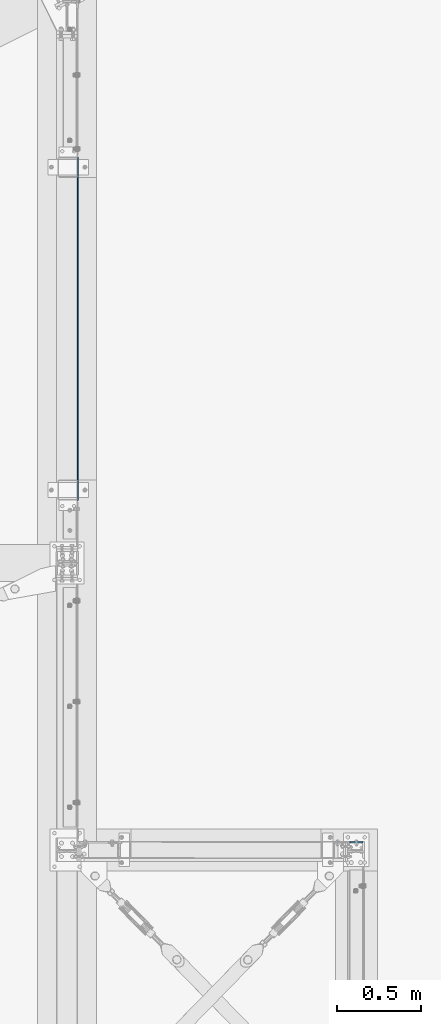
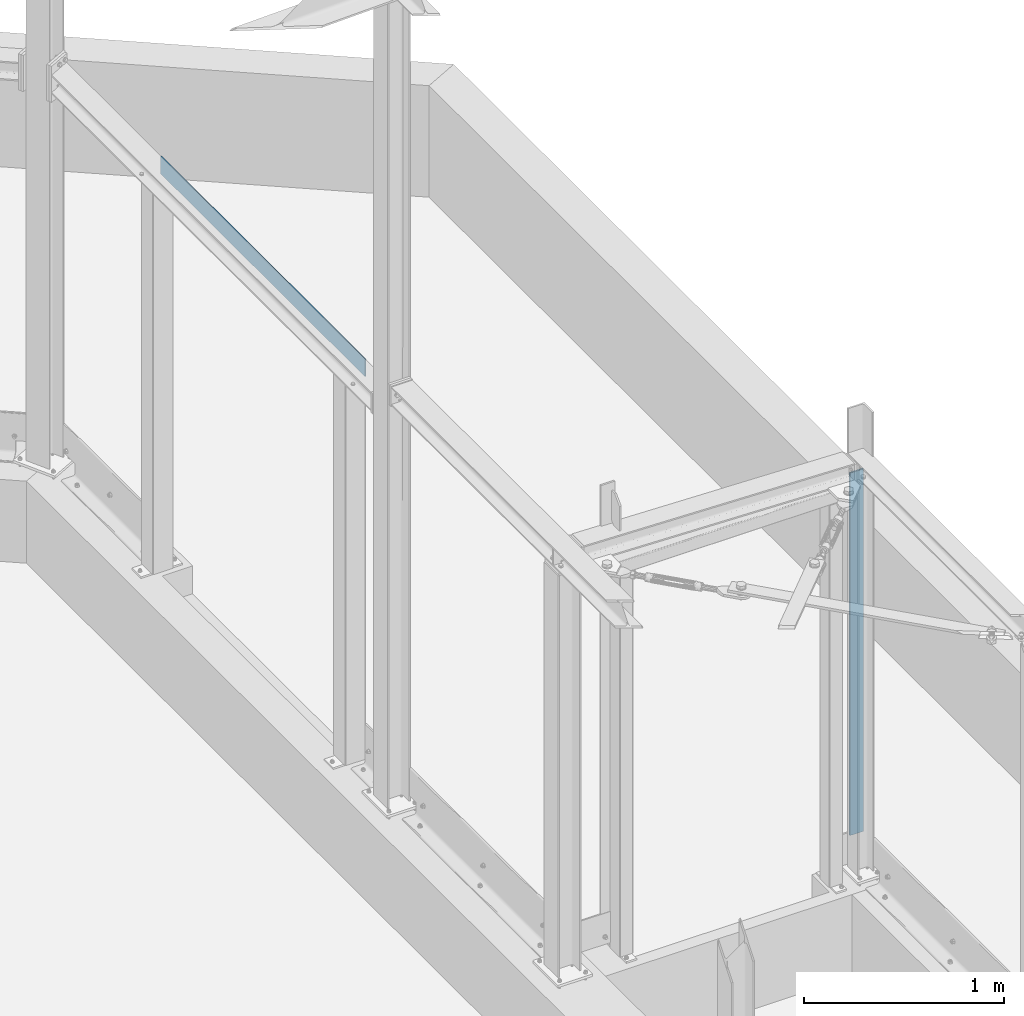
# One storey, part 31 of 476: 2 plates.
"""IFC2X3 building model written with IfcOpenShell, lengths in millimetres."""

import ifcopenshell
import ifcopenshell.guid

model = None  # the IFC model being written
_history = None  # IfcOwnerHistory: only IFC2X3 demands one
_inside = {}  # id of a spatial element -> (the spatial element, [elements in it])
_under = {}  # id of a project, library or spatial element -> (it, [spatial elements below it])
_declared = {}  # id of a project -> (the project, [libraries it declares])
_typed = {}  # id of a type object -> (the type object, [elements of that type])
_made_of = {}  # id of a material, layer set ... -> (it, [elements and type objects made of it])


def new_model(schema):
    """Start an empty IFC model of exactly this schema.

    Asked for "IFC4X3", IfcOpenShell would pick the latest addendum, in which some entities
    have other attributes; the version numbers below select the first issue.
    IFC2X3 requires an IfcOwnerHistory on every rooted entity: one is made here for all.
    """
    global model, _history
    if schema == "IFC4X3":
        model = ifcopenshell.file(schema_version=(4, 3, 0, 0))
    else:
        model = ifcopenshell.file(schema=schema)
    _inside.clear()
    _under.clear()
    _declared.clear()
    _typed.clear()
    _made_of.clear()
    _history = None
    if model.schema == "IFC2X3":
        org = make("IfcOrganization", Name="unknown")
        user = make(
            "IfcPersonAndOrganization",
            ThePerson=make("IfcPerson", FamilyName="unknown"),
            TheOrganization=org,
        )
        app = make(
            "IfcApplication",
            ApplicationDeveloper=org,
            Version="unknown",
            ApplicationFullName="unknown",
            ApplicationIdentifier="unknown",
        )
        _history = make(
            "IfcOwnerHistory",
            OwningUser=user,
            OwningApplication=app,
            ChangeAction="ADDED",
            CreationDate=0,
        )
    return model


def make(cls, **values):
    """One entity of the class cls with the attributes given. An attribute that is None is left unset."""
    return model.create_entity(
        cls, **{name: value for name, value in values.items() if value is not None}
    )


def entity(cls, *values):
    """Any entity or typed value of the class cls, its attributes in the order of the schema. None: left unset."""
    e = model.create_entity(cls)
    for i, value in enumerate(values):
        if value is not None:
            e[i] = value
    return e


def rooted(cls, **values):
    """An entity with a GlobalId (a new one), such as an element, a storey or a relation."""
    return make(cls, GlobalId=ifcopenshell.guid.new(), OwnerHistory=_history, **values)


def si_unit(unit_type, name, prefix=None):
    """IfcSIUnit, for example si_unit("LENGTHUNIT", "METRE", prefix="MILLI")."""
    return make("IfcSIUnit", UnitType=unit_type, Prefix=prefix, Name=name)


def converted_unit(unit_type, name, factor, base, dimensions=None, offset=None):
    """IfcConversionBasedUnit, such as the inch: factor (a typed value) times the base unit."""
    return make(
        "IfcConversionBasedUnit"
        if offset is None
        else "IfcConversionBasedUnitWithOffset",
        ConversionOffset=offset,
        Dimensions=None
        if dimensions is None
        else entity("IfcDimensionalExponents", *dimensions),
        UnitType=unit_type,
        Name=name,
        ConversionFactor=make(
            "IfcMeasureWithUnit", ValueComponent=factor, UnitComponent=base
        ),
    )


def assignment(units):
    """IfcUnitAssignment: the units of a project."""
    return None if units is None else make("IfcUnitAssignment", Units=units)


def point(xyz):
    """IfcCartesianPoint."""
    return None if xyz is None else make("IfcCartesianPoint", Coordinates=xyz)


def direction(xyz):
    """IfcDirection."""
    return None if xyz is None else make("IfcDirection", DirectionRatios=xyz)


def frame(location, z_axis=None, x_axis=None):
    """IfcAxis2Placement3D, a coordinate frame: its origin and axes. An axis left out is left unset."""
    return make(
        "IfcAxis2Placement3D",
        Location=point(location),
        Axis=direction(z_axis),
        RefDirection=direction(x_axis),
    )


def origin_with_axes():
    """The frame at (0, 0, 0) with the z axis (0, 0, 1) and the x axis (1, 0, 0) written out."""
    return frame((0.0, 0.0, 0.0), z_axis=(0.0, 0.0, 1.0), x_axis=(1.0, 0.0, 0.0))


def place(relative_to, where):
    """IfcLocalPlacement: puts the frame where relative to a parent placement (None: the world)."""
    return make(
        "IfcLocalPlacement", PlacementRelTo=relative_to, RelativePlacement=where
    )


def context(
    kind, dimensions, precision=None, world=None, true_north=None, identifier=None
):
    """IfcGeometricRepresentationContext, for example the 3D "Model" context."""
    return make(
        "IfcGeometricRepresentationContext",
        ContextIdentifier=identifier,
        ContextType=kind,
        CoordinateSpaceDimension=dimensions,
        Precision=precision,
        WorldCoordinateSystem=world,
        TrueNorth=true_north,
    )


def project(units=None, contexts=None):
    """IfcProject with its units and contexts."""
    return rooted(
        "IfcProject",
        Name="project",
        RepresentationContexts=contexts,
        UnitsInContext=assignment(units),
    )


def spatial(cls, under=None, at=None, **own):
    """A site, building, storey or space (cls), placed at a placement, below another one or the project."""
    s = rooted(cls, ObjectPlacement=at, **own)
    if under is not None:
        _under.setdefault(under.id(), (under, []))[1].append(s)
    return s


def polyline(points):
    """IfcPolyline through the points."""
    return make("IfcPolyline", Points=[point(p) for p in points])


def outline(outer, holes=None, kind="AREA"):
    """IfcArbitraryClosedProfileDef: a profile drawn as a closed curve; with holes, ...WithVoids."""
    if holes is None:
        return make("IfcArbitraryClosedProfileDef", ProfileType=kind, OuterCurve=outer)
    return make(
        "IfcArbitraryProfileDefWithVoids",
        ProfileType=kind,
        OuterCurve=outer,
        InnerCurves=holes,
    )


def extrude(swept, where, along, depth):
    """IfcExtrudedAreaSolid: the profile swept, set in the frame where, extruded along a direction by depth."""
    return make(
        "IfcExtrudedAreaSolid",
        SweptArea=swept,
        Position=where,
        ExtrudedDirection=direction(along),
        Depth=depth,
    )


def shape(context_of_items, identifier, shape_type, items):
    """IfcShapeRepresentation: the items that make up one representation, for example the "Body"."""
    return make(
        "IfcShapeRepresentation",
        ContextOfItems=context_of_items,
        RepresentationIdentifier=identifier,
        RepresentationType=shape_type,
        Items=items,
    )


def material(Name=None, Category=None):
    """IfcMaterial."""
    return make("IfcMaterial", Name=Name, Category=Category)


def layer(
    of_material, thickness, ventilated=None, Name=None, Category=None, Priority=None
):
    """IfcMaterialLayer: one layer of a wall or slab, of a material (None: an air gap)."""
    return make(
        "IfcMaterialLayer",
        Material=of_material,
        LayerThickness=thickness,
        IsVentilated=ventilated,
        Name=Name,
        Category=Category,
        Priority=Priority,
    )


def layer_set(layers, Name=None):
    """IfcMaterialLayerSet."""
    return make("IfcMaterialLayerSet", MaterialLayers=layers, LayerSetName=Name)


def made_of(thing, what):
    """Note that an element or type object is made of a material, layer set ...; save() writes the relation."""
    if what is not None:
        _made_of.setdefault(what.id(), (what, []))[1].append(thing)
    return thing


def element(
    cls,
    number,
    at=None,
    inside=None,
    cuts=None,
    type_object=None,
    material=None,
    context=None,
    identifier="Body",
    shape_type=None,
    held_by="IfcProductDefinitionShape",
    body=None,
    shapes=None,
    **own,
):
    """One element of the class cls, such as IfcWall. Its Tag is "e" and its number.

    at: its placement. inside: the storey or other place that contains it. cuts: it is an
    opening in that element (IfcRelVoidsElement). A single representation is given by context,
    identifier, shape_type and body (its items); several are given by shapes. held_by: the class
    of the entity that holds the representations. save() writes the other relations.
    """
    e = rooted(cls, Tag="e%d" % number, ObjectPlacement=at, **own)
    if body is not None:
        shapes = [shape(context, identifier, shape_type, body)]
    if shapes is not None:
        e.Representation = make(held_by, Representations=shapes)
    if inside is not None:
        _inside.setdefault(inside.id(), (inside, []))[1].append(e)
    if cuts is not None:
        rooted(
            "IfcRelVoidsElement", RelatingBuildingElement=cuts, RelatedOpeningElement=e
        )
    if type_object is not None:
        _typed.setdefault(type_object.id(), (type_object, []))[1].append(e)
    return made_of(e, material)


def aggregate(whole, parts):
    """IfcRelAggregates: a whole, such as a stair, and the parts it consists of."""
    return rooted("IfcRelAggregates", RelatingObject=whole, RelatedObjects=parts)


def save(model, path):
    """Write the relations noted so far, then the file.

    IfcRelAggregates (storeys below a building ...), IfcRelContainedInSpatialStructure (elements
    in a storey), IfcRelDefinesByType, IfcRelAssociatesMaterial and IfcRelDeclares: one each for
    every whole, place, type object, material and project.
    """
    for whole, parts in _under.values():
        aggregate(whole, parts)
    for where, things in _inside.values():
        rooted(
            "IfcRelContainedInSpatialStructure",
            RelatedElements=things,
            RelatingStructure=where,
        )
    for kind, things in _typed.values():
        rooted("IfcRelDefinesByType", RelatedObjects=things, RelatingType=kind)
    for what, things in _made_of.values():
        rooted("IfcRelAssociatesMaterial", RelatedObjects=things, RelatingMaterial=what)
    for by, libraries in _declared.values():
        rooted("IfcRelDeclares", RelatingContext=by, RelatedDefinitions=libraries)
    model.write(path)


model = new_model("IFC2X3")

# Units and contexts
model_context = context("Model", 3, precision=1e-09, world=origin_with_axes())
ifc_project = project(units=[si_unit("LENGTHUNIT", "METRE", prefix="MILLI"), si_unit("AREAUNIT", "SQUARE_METRE"), si_unit("VOLUMEUNIT", "CUBIC_METRE"), converted_unit("PLANEANGLEUNIT", "DEGREE", entity("IfcPlaneAngleMeasure", 0.01745329), si_unit("PLANEANGLEUNIT", "RADIAN"), dimensions=[0, 0, 0, 0, 0, 0, 0])], contexts=[model_context])

# Site, building, storey
site_placement = place(None, origin_with_axes())
site = spatial("IfcSite", under=ifc_project, at=site_placement, Name="mKR Teilneubau & Sanierung BA1 - Ostfildern", CompositionType="ELEMENT")
building_placement = place(site_placement, origin_with_axes())
building = spatial("IfcBuilding", under=site, at=building_placement, Name="Struktur 1", CompositionType="ELEMENT")
storey_placement = place(building_placement, origin_with_axes())
storey = spatial("IfcBuildingStorey", under=building, at=storey_placement, Name="Default Storey", CompositionType="ELEMENT", Elevation=0.0)

# Plates
ifc_material = material(Name="S235JR")
ifc_layer_1 = layer(ifc_material, 8.0)
ifc_layer_set_1 = layer_set([ifc_layer_1], Name="S235JR")
plate_1_placement = place(None, frame((23685.608764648, -4176.67387897, 1749.0), z_axis=(0.0, 1.0, 0.0), x_axis=(-1.0, 0.0, 0.0)))
element("IfcPlate", 1, at=plate_1_placement, inside=storey, material=ifc_layer_set_1, Name="-", ObjectType="-", context=model_context, shape_type="SweptSolid", body=[
    extrude(outline(polyline([(-39.0, -1021.0), (39.0, -1021.0), (39.0, 1189.0), (-39.0, 1189.0), (-39.0, -1021.0)])), origin_with_axes(), (0.0, 0.0, 1.0), 8.0),
])
ifc_layer_2 = layer(ifc_material, 6.0)
ifc_layer_set_2 = layer_set([ifc_layer_2], Name="S235JR")
plate_2_placement = place(None, frame((22025.608780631, -1119.103729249, 2912.000008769), z_axis=(1.0, 0.0, 0.0), x_axis=(0.0, 1.0, 0.0)))
element("IfcPlate", 2, at=plate_2_placement, inside=storey, material=ifc_layer_set_2, Name="-", ObjectType="-", context=model_context, shape_type="SweptSolid", body=[
    extrude(outline(polyline([(-1020.000969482, -53.000008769), (1020.000969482, -53.000008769), (1020.000969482, 53.000008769), (-1020.000969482, 53.000008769), (-1020.000969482, -53.000008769)])), origin_with_axes(), (0.0, 0.0, 1.0), 6.0),
])

save(model, "model.ifc")
